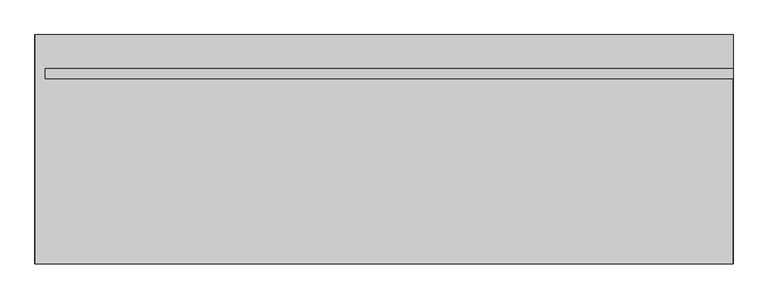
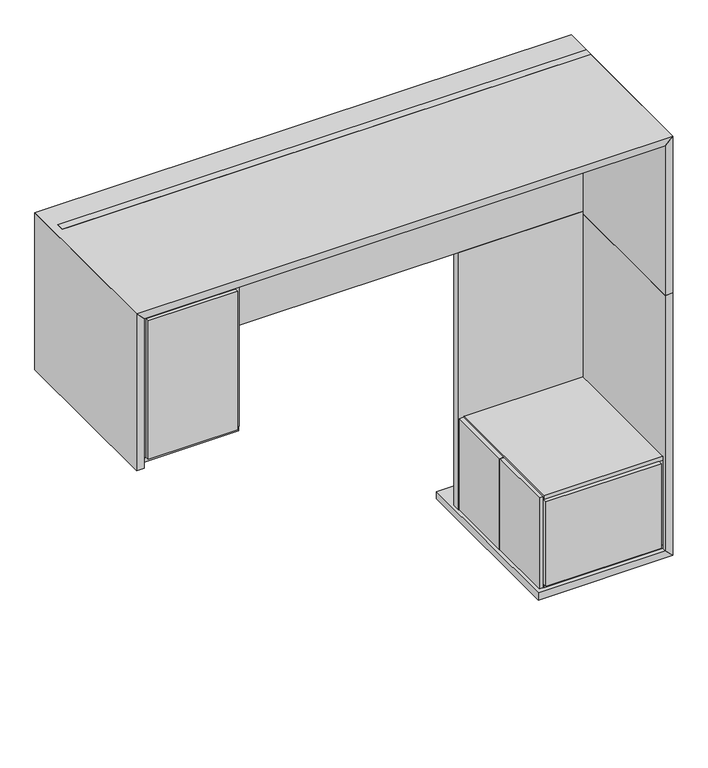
"""IFC4 building model written with IfcOpenShell, lengths in millimetres: proxy geometry, SALUTE^RECEPT_L SHAPED-PARTS SOLID."""

from ifc_helpers import new_model, si_unit, frame, origin, place, context, project, spatial, polyline, outline, extrude, source, transform, mapped, element, save


def generic_models_e0b08976(model_context):
    return source(origin(), model_context, "Body", "SweptSolid", [
        extrude(outline(polyline([(2003.425, 352.425), (2003.425, 19.05), (1984.375, 19.05), (1984.375, 352.425), (2003.425, 352.425)])), frame((0.0, 0.0, -2093.11875), z_axis=(0.0, 0.0, 1.0), x_axis=(1.0, 0.0, 0.0)), (0.0, 0.0, 1.0), 471.4875),
        extrude(outline(polyline([(57.15, 698.5), (495.3, 698.5), (495.3, 679.45), (57.15, 679.45), (57.15, 698.5)])), frame((0.0, 0.0, -736.6), z_axis=(0.0, 0.0, 1.0), x_axis=(1.0, 0.0, 0.0)), (0.0, 0.0, 1.0), 717.55),
        extrude(outline(polyline([(511.96875, 526.653125), (40.48125, 526.653125), (40.48125, 696.11875), (511.96875, 696.11875), (511.96875, 526.653125)])), frame((0.0, 0.0, -758.825), z_axis=(0.0, 0.0, 1.0), x_axis=(1.0, 0.0, 0.0)), (0.0, 0.0, 1.0), 19.05),
        extrude(outline(polyline([(2003.425, 696.11875), (2003.425, 354.80625), (1984.375, 354.80625), (1984.375, 696.11875), (2003.425, 696.11875)])), frame((0.0, 0.0, -2093.11875), z_axis=(0.0, 0.0, 1.0), x_axis=(1.0, 0.0, 0.0)), (0.0, 0.0, 1.0), 471.4875),
        extrude(outline(polyline([(2006.6, 679.45), (2006.6, 698.5), (2571.75, 698.5), (2571.75, 679.45), (2006.6, 679.45)])), frame((0.0, 0.0, -2076.45), z_axis=(0.0, 0.0, 1.0), x_axis=(1.0, 0.0, 0.0)), (0.0, 0.0, 1.0), 438.15),
        extrude(outline(polyline([(2006.6, 0.0), (2006.6, 38.1), (2571.75, 38.1), (2571.75, 0.0), (2006.6, 0.0)])), frame((0.0, 0.0, -2076.45), z_axis=(0.0, 0.0, 1.0), x_axis=(1.0, 0.0, 0.0)), (0.0, 0.0, 1.0), 438.15),
        extrude(outline(polyline([(495.3, 19.05), (495.3, 698.5), (514.35, 698.5), (514.35, 19.05), (495.3, 19.05)])), frame((0.0, 0.0, -736.6), z_axis=(0.0, 0.0, 1.0), x_axis=(1.0, 0.0, 0.0)), (0.0, 0.0, 1.0), 736.6),
        extrude(outline(polyline([(2628.9, 736.6), (2628.9, 698.5), (1981.2, 698.5), (1981.2, 736.6), (2628.9, 736.6)])), frame((0.0, 0.0, -2095.5), z_axis=(0.0, 0.0, 1.0), x_axis=(1.0, 0.0, 0.0)), (0.0, 0.0, 1.0), 1333.5),
        extrude(outline(polyline([(-774.7, 38.1), (0.0, 38.1), (38.1, 0.0), (-774.7, 0.0), (-774.7, 38.1)])), frame((0.0, 0.0, 0.0), z_axis=(0.0, 1.0, 0.0), x_axis=(0.0, 0.0, 1.0)), (0.0, 0.0, 1.0), 863.6),
        extrude(outline(polyline([(2628.9, 698.5), (38.1, 698.5), (38.1, 736.6), (2628.9, 736.6), (2628.9, 698.5)])), frame((0.0, 0.0, -762.0), z_axis=(0.0, 0.0, 1.0), x_axis=(1.0, 0.0, 0.0)), (0.0, 0.0, 1.0), 800.1),
        extrude(outline(polyline([(2590.8, 698.5), (2590.8, 19.05), (2006.6, 19.05), (2006.6, 698.5), (2590.8, 698.5)])), frame((0.0, 0.0, -1638.3), z_axis=(0.0, 0.0, 1.0), x_axis=(1.0, 0.0, 0.0)), (0.0, 0.0, 1.0), 19.05),
        extrude(outline(polyline([(2571.75, 698.5), (2590.8, 698.5), (2590.8, 19.05), (2571.75, 19.05), (2571.75, 698.5)])), frame((0.0, 0.0, -2076.45), z_axis=(0.0, 0.0, 1.0), x_axis=(1.0, 0.0, 0.0)), (0.0, 0.0, 1.0), 438.15),
        extrude(outline(polyline([(2590.8, 698.5), (2590.8, 19.05), (2006.6, 19.05), (2006.6, 698.5), (2590.8, 698.5)])), frame((0.0, 0.0, -2095.5), z_axis=(0.0, 0.0, 1.0), x_axis=(1.0, 0.0, 0.0)), (0.0, 0.0, 1.0), 19.05),
        extrude(outline(polyline([(-2095.5, 2590.8), (-2133.6, 2628.9), (-774.7, 2628.9), (-774.7, 2590.8), (-2095.5, 2590.8)])), frame((0.0, 0.0, 0.0), z_axis=(0.0, 1.0, 0.0), x_axis=(0.0, 0.0, 1.0)), (0.0, 0.0, 1.0), 863.6),
        extrude(outline(polyline([(511.96875, 524.271875), (511.96875, 354.80625), (40.48125, 354.80625), (40.48125, 524.271875), (511.96875, 524.271875)])), frame((0.0, 0.0, -758.825), z_axis=(0.0, 0.0, 1.0), x_axis=(1.0, 0.0, 0.0)), (0.0, 0.0, 1.0), 19.05),
        extrude(outline(polyline([(0.0, 2590.8), (-774.7, 2590.8), (-774.7, 2628.9), (38.1, 2628.9), (0.0, 2590.8)])), frame((0.0, 0.0, 0.0), z_axis=(0.0, 1.0, 0.0), x_axis=(0.0, 0.0, 1.0)), (0.0, 0.0, 1.0), 698.5),
        extrude(outline(polyline([(-2095.5, 2590.8), (-2095.5, 1968.5), (-2133.6, 1968.5), (-2133.6, 2628.9), (-2095.5, 2590.8)])), frame((0.0, 0.0, 0.0), z_axis=(0.0, 1.0, 0.0), x_axis=(0.0, 0.0, 1.0)), (0.0, 0.0, 1.0), 863.6),
        extrude(outline(polyline([(0.0, 2590.8), (38.1, 2628.9), (38.1, 0.0), (0.0, 38.1), (0.0, 2590.8)])), frame((0.0, 0.0, 0.0), z_axis=(0.0, 1.0, 0.0), x_axis=(0.0, 0.0, 1.0)), (0.0, 0.0, 1.0), 863.6),
        extrude(outline(polyline([(511.96875, 19.05), (40.48125, 19.05), (40.48125, 352.425), (511.96875, 352.425), (511.96875, 19.05)])), frame((0.0, 0.0, -758.825), z_axis=(0.0, 0.0, 1.0), x_axis=(1.0, 0.0, 0.0)), (0.0, 0.0, 1.0), 19.05),
        extrude(outline(polyline([(38.1, 698.5), (57.15, 698.5), (57.15, 19.05), (38.1, 19.05), (38.1, 698.5)])), frame((0.0, 0.0, -736.6), z_axis=(0.0, 0.0, 1.0), x_axis=(1.0, 0.0, 0.0)), (0.0, 0.0, 1.0), 736.6),
        extrude(outline(polyline([(495.3, 38.1), (495.3, 0.0), (57.15, 0.0), (57.15, 38.1), (495.3, 38.1)])), frame((0.0, 0.0, -736.6), z_axis=(0.0, 0.0, 1.0), x_axis=(1.0, 0.0, 0.0)), (0.0, 0.0, 1.0), 717.55),
        extrude(outline(polyline([(57.15, 19.05), (57.15, 698.5), (495.3, 698.5), (495.3, 19.05), (57.15, 19.05)])), frame((0.0, 0.0, -19.05), z_axis=(0.0, 0.0, 1.0), x_axis=(1.0, 0.0, 0.0)), (0.0, 0.0, 1.0), 19.05),
    ])


if __name__ == "__main__":
    model = new_model("IFC4")
    model_context = context("Model", 3, world=origin())
    ifc_project = project(units=[si_unit("LENGTHUNIT", "METRE", prefix="MILLI")], contexts=[model_context])
    site = spatial("IfcSite", under=ifc_project)
    building = spatial("IfcBuilding", under=site)
    placement = place(None, origin())
    generic_models_shape = generic_models_e0b08976(model_context)
    element("IfcBuildingElementProxy", 1, Name="SALUTE^RECEPT_L SHAPED-PARTS SOLID", ObjectType="SALUTE^RECEPT_L SHAPED-PARTS SOLID", at=placement, inside=building, context=model_context, shape_type="MappedRepresentation", body=[
        mapped(generic_models_shape, transform((0.0, 0.0, 0.0), x_axis=(1.0, 0.0, 0.0), y_axis=(0.0, 1.0, 0.0), z_axis=(0.0, 0.0, 1.0))),
    ])
    save(model, "model.ifc")
